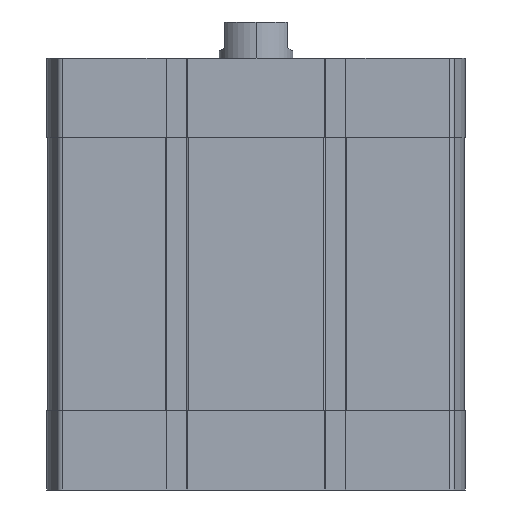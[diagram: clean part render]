
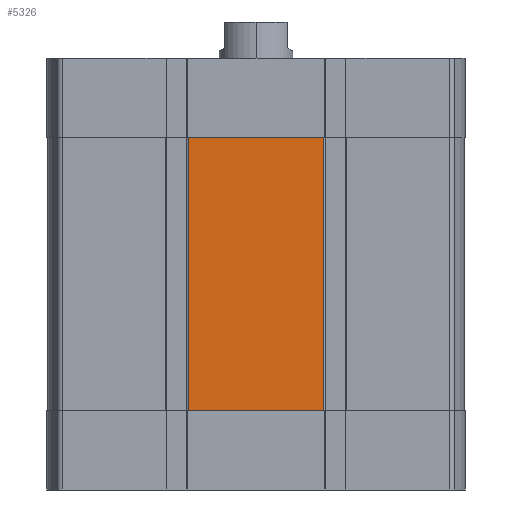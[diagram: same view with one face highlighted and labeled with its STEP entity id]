
A CAD part, left-side view. The second image highlights one B-rep face of the part: STEP entity #5326.
In plain terms, the highlighted planar face has unit normal (-1, 0, 0).
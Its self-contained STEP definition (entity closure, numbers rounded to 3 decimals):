
#312 = DIRECTION ( 'NONE',  ( 0., -1., 0. ) ) ;
#757 = EDGE_CURVE ( 'NONE', #3575, #19774, #5145, .T. ) ;
#1115 = FACE_OUTER_BOUND ( 'NONE', #8090, .T. ) ;
#1506 = ORIENTED_EDGE ( 'NONE', *, *, #15003, .T. ) ;
#1768 = CARTESIAN_POINT ( 'NONE',  ( -56.5, 18.345, -95.5 ) ) ;
#2860 = DIRECTION ( 'NONE',  ( 0., 0., 1. ) ) ;
#3400 = CARTESIAN_POINT ( 'NONE',  ( -56.5, 18.345, -95.5 ) ) ;
#3558 = AXIS2_PLACEMENT_3D ( 'NONE', #15185, #19707, #2860 ) ;
#3575 = VERTEX_POINT ( 'NONE', #3400 ) ;
#5145 = LINE ( 'NONE', #1768, #13571 ) ;
#5245 = VECTOR ( 'NONE', #18142, 1000. ) ;
#5326 = ADVANCED_FACE ( 'NONE', ( #1115 ), #19919, .T. ) ;
#5862 = ORIENTED_EDGE ( 'NONE', *, *, #757, .F. ) ;
#6541 = VERTEX_POINT ( 'NONE', #8178 ) ;
#7077 = CARTESIAN_POINT ( 'NONE',  ( -56.5, 18.345, -21.5 ) ) ;
#7179 = DIRECTION ( 'NONE',  ( 0., -1., 0. ) ) ;
#7779 = ORIENTED_EDGE ( 'NONE', *, *, #11472, .F. ) ;
#8090 = EDGE_LOOP ( 'NONE', ( #7779, #5862, #10162, #1506 ) ) ;
#8178 = CARTESIAN_POINT ( 'NONE',  ( -56.5, -18.345, -21.5 ) ) ;
#8517 = LINE ( 'NONE', #7077, #16561 ) ;
#9880 = LINE ( 'NONE', #19227, #12503 ) ;
#10162 = ORIENTED_EDGE ( 'NONE', *, *, #12634, .T. ) ;
#11119 = DIRECTION ( 'NONE',  ( 0., 0., 1. ) ) ;
#11472 = EDGE_CURVE ( 'NONE', #19774, #6541, #8517, .T. ) ;
#12147 = CARTESIAN_POINT ( 'NONE',  ( -56.5, -18.345, -95.5 ) ) ;
#12260 = LINE ( 'NONE', #16982, #5245 ) ;
#12503 = VECTOR ( 'NONE', #312, 1000. ) ;
#12634 = EDGE_CURVE ( 'NONE', #3575, #19122, #9880, .T. ) ;
#13571 = VECTOR ( 'NONE', #11119, 1000. ) ;
#13572 = CARTESIAN_POINT ( 'NONE',  ( -56.5, 18.345, -21.5 ) ) ;
#15003 = EDGE_CURVE ( 'NONE', #19122, #6541, #12260, .T. ) ;
#15185 = CARTESIAN_POINT ( 'NONE',  ( -56.5, 18.345, -95.5 ) ) ;
#16561 = VECTOR ( 'NONE', #7179, 1000. ) ;
#16982 = CARTESIAN_POINT ( 'NONE',  ( -56.5, -18.345, -95.5 ) ) ;
#18142 = DIRECTION ( 'NONE',  ( 0., 0., 1. ) ) ;
#19122 = VERTEX_POINT ( 'NONE', #12147 ) ;
#19227 = CARTESIAN_POINT ( 'NONE',  ( -56.5, 18.345, -95.5 ) ) ;
#19707 = DIRECTION ( 'NONE',  ( -1., 0., 0. ) ) ;
#19774 = VERTEX_POINT ( 'NONE', #13572 ) ;
#19919 = PLANE ( 'NONE',  #3558 ) ;
